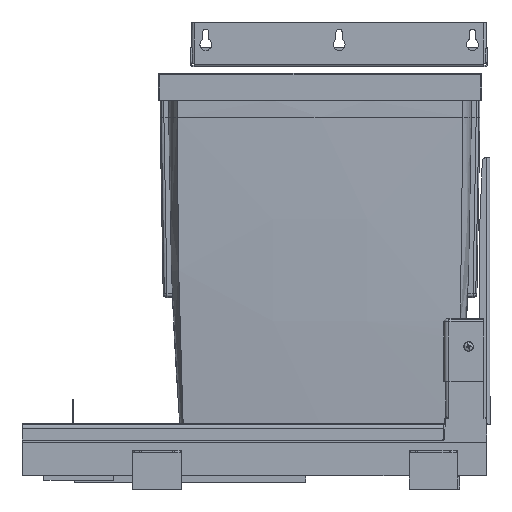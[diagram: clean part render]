
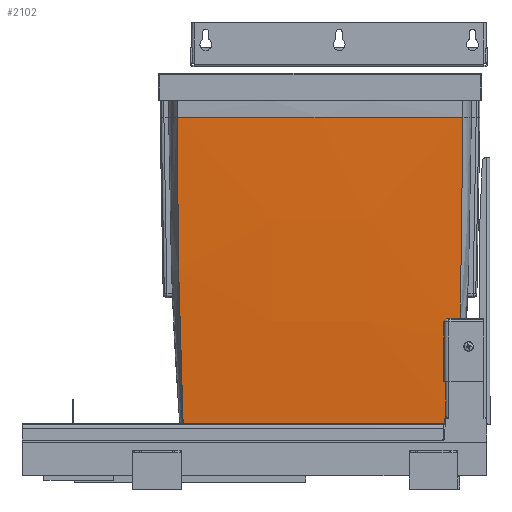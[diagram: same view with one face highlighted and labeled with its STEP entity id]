
A CAD part, left-side view. The second image highlights one B-rep face of the part: STEP entity #2102.
In plain terms, the highlighted free-form (B-spline) face has degree [3, 3] with [4, 4] control points.
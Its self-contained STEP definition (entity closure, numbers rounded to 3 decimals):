
#2102=ADVANCED_FACE('',(#4666),#4667,.T.);
#4666=FACE_OUTER_BOUND('',#11417,.T.);
#4667=B_SPLINE_SURFACE_WITH_KNOTS('',3,3,((#11418,#11419,#11420,#11421),(#11422,#11423,#11424,#11425),(#11426,#11427,#11428,#11429),(#11430,#11431,#11432,#11433)),.UNSPECIFIED.,.F.,.F.,.F.,(4,4),(4,4),(0.0,1.0),(0.002,0.997),.UNSPECIFIED.);
#11417=EDGE_LOOP('',(#18198,#18199,#18200,#18201,#18202,#18203,#18204,#18205,#18206,#18207));
#11418=CARTESIAN_POINT('',(11.987,24.944,390.569));
#11419=CARTESIAN_POINT('',(12.,24.951,283.411));
#11420=CARTESIAN_POINT('',(15.814,27.047,176.252));
#11421=CARTESIAN_POINT('',(23.429,31.232,69.094));
#11422=CARTESIAN_POINT('',(8.673,124.945,390.569));
#11423=CARTESIAN_POINT('',(8.686,124.947,283.411));
#11424=CARTESIAN_POINT('',(12.675,125.649,176.252));
#11425=CARTESIAN_POINT('',(20.379,127.045,69.094));
#11426=CARTESIAN_POINT('',(8.673,225.055,390.569));
#11427=CARTESIAN_POINT('',(8.686,225.053,283.411));
#11428=CARTESIAN_POINT('',(12.675,224.351,176.252));
#11429=CARTESIAN_POINT('',(20.379,222.955,69.094));
#11430=CARTESIAN_POINT('',(11.987,325.056,390.569));
#11431=CARTESIAN_POINT('',(12.,325.049,283.411));
#11432=CARTESIAN_POINT('',(15.814,322.953,176.252));
#11433=CARTESIAN_POINT('',(23.429,318.768,69.094));
#18198=ORIENTED_EDGE('',*,*,#23093,.T.);
#18199=ORIENTED_EDGE('',*,*,#23340,.T.);
#18200=ORIENTED_EDGE('',*,*,#23332,.T.);
#18201=ORIENTED_EDGE('',*,*,#23099,.T.);
#18202=ORIENTED_EDGE('',*,*,#22408,.T.);
#18203=ORIENTED_EDGE('',*,*,#24243,.F.);
#18204=ORIENTED_EDGE('',*,*,#24244,.T.);
#18205=ORIENTED_EDGE('',*,*,#24238,.T.);
#18206=ORIENTED_EDGE('',*,*,#23121,.T.);
#18207=ORIENTED_EDGE('',*,*,#24245,.F.);
#22408=EDGE_CURVE('',#26331,#26337,#26339,.T.);
#23093=EDGE_CURVE('',#27395,#27396,#27397,.T.);
#23099=EDGE_CURVE('',#27405,#26331,#27406,.T.);
#23121=EDGE_CURVE('',#27441,#27438,#27442,.T.);
#23332=EDGE_CURVE('',#27751,#27405,#27752,.T.);
#23340=EDGE_CURVE('',#27396,#27751,#27762,.T.);
#24238=EDGE_CURVE('',#29017,#27441,#29018,.T.);
#24243=EDGE_CURVE('',#29025,#26337,#29026,.T.);
#24244=EDGE_CURVE('',#29025,#29017,#29027,.T.);
#24245=EDGE_CURVE('',#27395,#27438,#29028,.T.);
#26331=VERTEX_POINT('',#32006);
#26337=VERTEX_POINT('',#32014);
#26339=B_SPLINE_CURVE_WITH_KNOTS('',3,(#32037,#32038,#32039,#32040),.UNSPECIFIED.,.F.,.F.,(4,4),(-1.163,0.0),.UNSPECIFIED.);
#27395=VERTEX_POINT('',#33492);
#27396=VERTEX_POINT('',#33493);
#27397=B_SPLINE_CURVE_WITH_KNOTS('',3,(#33494,#33495,#33496,#33497),.UNSPECIFIED.,.F.,.F.,(4,4),(-1.407,-0.057),.UNSPECIFIED.);
#27405=VERTEX_POINT('',#33511);
#27406=B_SPLINE_CURVE_WITH_KNOTS('',3,(#33512,#33513,#33514,#33515),.UNSPECIFIED.,.F.,.F.,(4,4),(-1.163,0.0),.UNSPECIFIED.);
#27438=VERTEX_POINT('',#33584);
#27441=VERTEX_POINT('',#33590);
#27442=B_SPLINE_CURVE_WITH_KNOTS('',3,(#33591,#33592,#33593,#33594),.UNSPECIFIED.,.F.,.F.,(4,4),(-28.759,0.0),.UNSPECIFIED.);
#27751=VERTEX_POINT('',#34204);
#27752=B_SPLINE_CURVE_WITH_KNOTS('',3,(#34205,#34206,#34207,#34208,#34209,#34210,#34211,#34212,#34213,#34214,#34215,#34216,#34217,#34218),.UNSPECIFIED.,.F.,.F.,(4,2,2,2,2,2,4),(-0.849,-0.812,-0.773,-0.698,-0.6,-0.463,-0.397),.UNSPECIFIED.);
#27762=B_SPLINE_CURVE_WITH_KNOTS('',3,(#34229,#34230,#34231,#34232,#34233,#34234,#34235,#34236,#34237,#34238,#34239,#34240,#34241,#34242,#34243,#34244,#34245,#34246),.UNSPECIFIED.,.F.,.F.,(4,2,2,2,2,2,2,2,4),(-1.961,-1.953,-1.924,-1.894,-1.851,-1.747,-1.084,-0.632,0.0),.UNSPECIFIED.);
#29017=VERTEX_POINT('',#36138);
#29018=B_SPLINE_CURVE_WITH_KNOTS('',3,(#36139,#36140,#36141,#36142),.UNSPECIFIED.,.F.,.F.,(4,4),(0.002,0.997),.UNSPECIFIED.);
#29025=VERTEX_POINT('',#36158);
#29026=B_SPLINE_CURVE_WITH_KNOTS('',3,(#36159,#36160,#36161,#36162),.UNSPECIFIED.,.F.,.F.,(4,4),(0.002,0.661),.UNSPECIFIED.);
#29027=B_SPLINE_CURVE_WITH_KNOTS('',3,(#36163,#36164,#36165,#36166),.UNSPECIFIED.,.F.,.F.,(4,4),(-30.017,0.0),.UNSPECIFIED.);
#29028=B_SPLINE_CURVE_WITH_KNOTS('',3,(#36167,#36168,#36169,#36170),.UNSPECIFIED.,.F.,.F.,(4,4),(0.698,0.997),.UNSPECIFIED.);
#32006=CARTESIAN_POINT('',(16.721,36.623,177.965));
#32014=CARTESIAN_POINT('',(17.016,27.708,177.623));
#32037=CARTESIAN_POINT('',(16.628,39.6,178.055));
#32038=CARTESIAN_POINT('',(16.748,35.718,177.945));
#32039=CARTESIAN_POINT('',(16.883,31.58,177.804));
#32040=CARTESIAN_POINT('',(17.016,27.708,177.623));
#33492=CARTESIAN_POINT('',(17.6,28.029,165.567));
#33493=CARTESIAN_POINT('',(17.6,39.6,158.624));
#33494=CARTESIAN_POINT('',(17.6,28.029,165.567));
#33495=CARTESIAN_POINT('',(17.6,31.828,163.158));
#33496=CARTESIAN_POINT('',(17.6,35.687,160.843));
#33497=CARTESIAN_POINT('',(17.6,39.6,158.624));
#33511=CARTESIAN_POINT('',(16.628,39.6,178.055));
#33512=CARTESIAN_POINT('',(16.628,39.6,178.055));
#33513=CARTESIAN_POINT('',(16.748,35.718,177.945));
#33514=CARTESIAN_POINT('',(16.883,31.58,177.804));
#33515=CARTESIAN_POINT('',(17.016,27.708,177.623));
#33584=CARTESIAN_POINT('',(23.429,31.232,69.094));
#33590=CARTESIAN_POINT('',(23.429,318.768,69.094));
#33591=CARTESIAN_POINT('',(23.429,318.768,69.094));
#33592=CARTESIAN_POINT('',(20.379,222.955,69.094));
#33593=CARTESIAN_POINT('',(20.379,127.045,69.094));
#33594=CARTESIAN_POINT('',(23.429,31.232,69.094));
#34204=CARTESIAN_POINT('',(16.645,42.667,175.844));
#34205=CARTESIAN_POINT('',(16.645,42.667,175.844));
#34206=CARTESIAN_POINT('',(16.639,42.675,175.95));
#34207=CARTESIAN_POINT('',(16.634,42.672,176.056));
#34208=CARTESIAN_POINT('',(16.625,42.646,176.271));
#34209=CARTESIAN_POINT('',(16.62,42.621,176.38));
#34210=CARTESIAN_POINT('',(16.608,42.518,176.688));
#34211=CARTESIAN_POINT('',(16.602,42.413,176.876));
#34212=CARTESIAN_POINT('',(16.593,42.105,177.261));
#34213=CARTESIAN_POINT('',(16.59,41.876,177.456));
#34214=CARTESIAN_POINT('',(16.591,41.189,177.841));
#34215=CARTESIAN_POINT('',(16.599,40.729,177.97));
#34216=CARTESIAN_POINT('',(16.615,40.052,178.051));
#34217=CARTESIAN_POINT('',(16.621,39.826,178.061));
#34218=CARTESIAN_POINT('',(16.628,39.6,178.055));
#34229=CARTESIAN_POINT('',(17.6,39.6,158.624));
#34230=CARTESIAN_POINT('',(17.6,39.609,158.619));
#34231=CARTESIAN_POINT('',(17.6,39.617,158.615));
#34232=CARTESIAN_POINT('',(17.6,39.66,158.594));
#34233=CARTESIAN_POINT('',(17.599,39.696,158.584));
#34234=CARTESIAN_POINT('',(17.597,39.773,158.577));
#34235=CARTESIAN_POINT('',(17.596,39.811,158.581));
#34236=CARTESIAN_POINT('',(17.592,39.901,158.61));
#34237=CARTESIAN_POINT('',(17.589,39.95,158.64));
#34238=CARTESIAN_POINT('',(17.578,40.097,158.763));
#34239=CARTESIAN_POINT('',(17.568,40.194,158.902));
#34240=CARTESIAN_POINT('',(17.485,40.844,160.125));
#34241=CARTESIAN_POINT('',(17.339,41.29,162.695));
#34242=CARTESIAN_POINT('',(17.138,41.798,166.372));
#34243=CARTESIAN_POINT('',(17.052,41.976,167.966));
#34244=CARTESIAN_POINT('',(16.863,42.333,171.557));
#34245=CARTESIAN_POINT('',(16.75,42.513,173.746));
#34246=CARTESIAN_POINT('',(16.645,42.667,175.844));
#36138=CARTESIAN_POINT('',(11.987,325.056,390.569));
#36139=CARTESIAN_POINT('',(11.987,325.056,390.569));
#36140=CARTESIAN_POINT('',(12.,325.049,283.411));
#36141=CARTESIAN_POINT('',(15.814,322.953,176.252));
#36142=CARTESIAN_POINT('',(23.429,318.768,69.094));
#36158=CARTESIAN_POINT('',(11.987,24.944,390.569));
#36159=CARTESIAN_POINT('',(11.987,24.944,390.569));
#36160=CARTESIAN_POINT('',(11.995,24.949,319.587));
#36161=CARTESIAN_POINT('',(13.672,25.87,248.605));
#36162=CARTESIAN_POINT('',(17.016,27.708,177.623));
#36163=CARTESIAN_POINT('',(11.987,24.944,390.569));
#36164=CARTESIAN_POINT('',(8.673,124.945,390.569));
#36165=CARTESIAN_POINT('',(8.673,225.055,390.569));
#36166=CARTESIAN_POINT('',(11.987,325.056,390.569));
#36167=CARTESIAN_POINT('',(17.6,28.029,165.567));
#36168=CARTESIAN_POINT('',(19.201,28.908,133.409));
#36169=CARTESIAN_POINT('',(21.144,29.976,101.252));
#36170=CARTESIAN_POINT('',(23.429,31.232,69.094));
